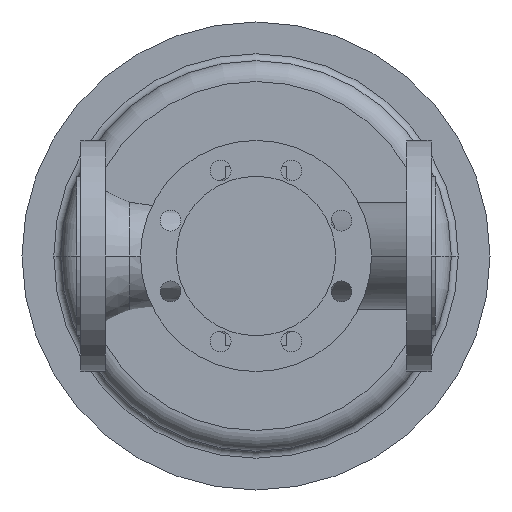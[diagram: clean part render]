
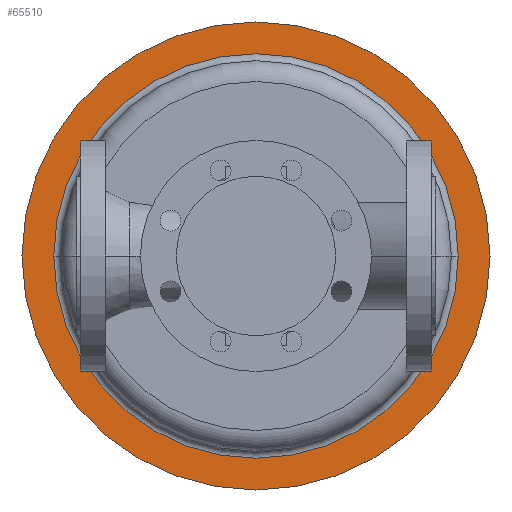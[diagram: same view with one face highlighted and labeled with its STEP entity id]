
A CAD part, front view. The second image highlights one B-rep face of the part: STEP entity #65510.
In plain terms, the highlighted planar face has unit normal (0, -1, 0).
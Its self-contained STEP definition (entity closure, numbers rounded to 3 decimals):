
#59450=CARTESIAN_POINT('',(-47.5,833.7,0.));
#59460=VERTEX_POINT('',#59450);
#59490=CARTESIAN_POINT('',(155.,833.7,0.));
#59500=DIRECTION('',(0.,1.,0.));
#59510=DIRECTION('',(1.,0.,0.));
#59520=AXIS2_PLACEMENT_3D('',#59490,#59500,#59510);
#59530=CIRCLE('',#59520,202.5);
#59540=CARTESIAN_POINT('',(357.5,833.7,0.));
#59550=VERTEX_POINT('',#59540);
#59560=EDGE_CURVE('',#59550,#59460,#59530,.T.);
#59810=CARTESIAN_POINT('',(155.,833.7,0.));
#59820=DIRECTION('',(0.,1.,0.));
#59830=DIRECTION('',(1.,0.,0.));
#59840=AXIS2_PLACEMENT_3D('',#59810,#59820,#59830);
#59850=CIRCLE('',#59840,175.);
#59860=CARTESIAN_POINT('',(155.,833.7,175.));
#59870=VERTEX_POINT('',#59860);
#59880=CARTESIAN_POINT('',(330.,833.7,0.));
#59890=VERTEX_POINT('',#59880);
#59900=EDGE_CURVE('',#59870,#59890,#59850,.T.);
#60150=CARTESIAN_POINT('',(-20.,833.7,0.));
#60160=VERTEX_POINT('',#60150);
#60190=EDGE_CURVE('',#60160,#59870,#59850,.T.);
#65350=CARTESIAN_POINT('',(343.75,833.7,0.));
#65360=DIRECTION('',(0.,-1.,0.));
#65370=DIRECTION('',(-1.,0.,0.));
#65380=AXIS2_PLACEMENT_3D('',#65350,#65360,#65370);
#65390=PLANE('',#65380);
#65400=ORIENTED_EDGE('',*,*,#59560,.F.);
#65410=EDGE_CURVE('',#59460,#59550,#59530,.T.);
#65420=ORIENTED_EDGE('',*,*,#65410,.F.);
#65430=EDGE_LOOP('',(#65420,#65400));
#65440=FACE_OUTER_BOUND('',#65430,.T.);
#65450=EDGE_CURVE('',#59890,#60160,#59850,.T.);
#65460=ORIENTED_EDGE('',*,*,#65450,.T.);
#65470=ORIENTED_EDGE('',*,*,#59900,.T.);
#65480=ORIENTED_EDGE('',*,*,#60190,.T.);
#65490=EDGE_LOOP('',(#65480,#65470,#65460));
#65500=FACE_BOUND('',#65490,.T.);
#65510=ADVANCED_FACE('',(#65440,#65500),#65390,.T.);
